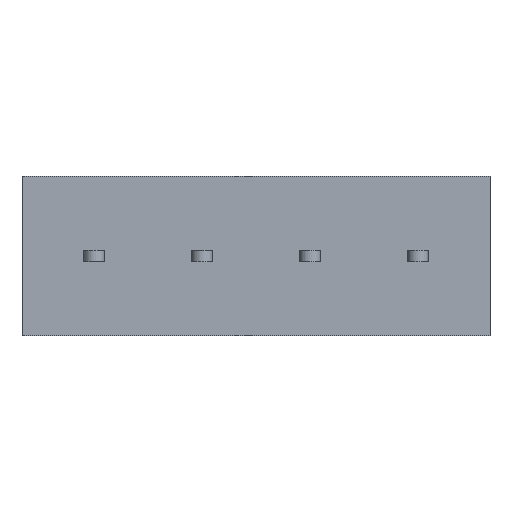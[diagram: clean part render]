
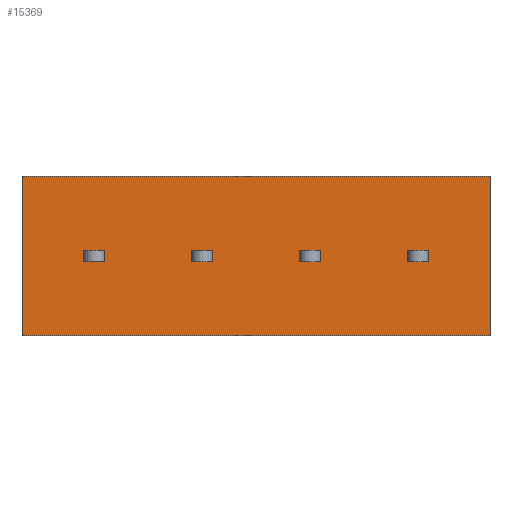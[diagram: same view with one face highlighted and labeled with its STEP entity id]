
A CAD part, front view. The second image highlights one B-rep face of the part: STEP entity #15369.
In plain terms, the highlighted planar face has unit normal (0, -1, 0).
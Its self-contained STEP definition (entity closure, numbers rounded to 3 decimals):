
#1140=VERTEX_POINT('',#20945);
#1141=VERTEX_POINT('',#20946);
#1144=VERTEX_POINT('',#20954);
#1174=VERTEX_POINT('',#21024);
#1460=VERTEX_POINT('',#21944);
#1461=VERTEX_POINT('',#21945);
#1466=VERTEX_POINT('',#21959);
#1473=VERTEX_POINT('',#21985);
#1536=VERTEX_POINT('',#22124);
#1537=VERTEX_POINT('',#22126);
#1542=VERTEX_POINT('',#22174);
#1543=VERTEX_POINT('',#22175);
#1552=VERTEX_POINT('',#22198);
#1553=VERTEX_POINT('',#22199);
#1554=VERTEX_POINT('',#22201);
#1555=VERTEX_POINT('',#22203);
#1556=VERTEX_POINT('',#22206);
#1557=VERTEX_POINT('',#22207);
#1558=VERTEX_POINT('',#22209);
#1559=VERTEX_POINT('',#22211);
#2721=VECTOR('',#17504,1.);
#2724=VECTOR('',#17510,1.);
#2754=VECTOR('',#17556,1.);
#2757=VECTOR('',#17564,1.);
#3059=VECTOR('',#18238,1.);
#3064=VECTOR('',#18250,1.);
#3073=VECTOR('',#18275,1.);
#3075=VECTOR('',#18278,1.);
#3119=VECTOR('',#18376,1.);
#3144=VECTOR('',#18427,1.);
#3157=VECTOR('',#18441,1.);
#3158=VECTOR('',#18442,1.);
#3159=VECTOR('',#18443,1.);
#3160=VECTOR('',#18444,1.);
#3161=VECTOR('',#18445,1.);
#3162=VECTOR('',#18446,1.);
#3163=VECTOR('',#18447,1.);
#3164=VECTOR('',#18448,1.);
#3165=VECTOR('',#18449,1.);
#3166=VECTOR('',#18450,1.);
#4487=LINE('',#20944,#2721);
#4490=LINE('',#20953,#2724);
#4520=LINE('',#21023,#2754);
#4523=LINE('',#21031,#2757);
#4825=LINE('',#21943,#3059);
#4830=LINE('',#21958,#3064);
#4839=LINE('',#21984,#3073);
#4841=LINE('',#21988,#3075);
#4885=LINE('',#22125,#3119);
#4910=LINE('',#22173,#3144);
#4923=LINE('',#22197,#3157);
#4924=LINE('',#22200,#3158);
#4925=LINE('',#22202,#3159);
#4926=LINE('',#22204,#3160);
#4927=LINE('',#22205,#3161);
#4928=LINE('',#22208,#3162);
#4929=LINE('',#22210,#3163);
#4930=LINE('',#22212,#3164);
#4931=LINE('',#22213,#3165);
#4932=LINE('',#22214,#3166);
#6348=EDGE_CURVE('',#1140,#1141,#4487,.T.);
#6352=EDGE_CURVE('',#1141,#1144,#4490,.T.);
#6390=EDGE_CURVE('',#1144,#1174,#4520,.T.);
#6394=EDGE_CURVE('',#1174,#1140,#4523,.T.);
#6830=EDGE_CURVE('',#1460,#1461,#4825,.T.);
#6837=EDGE_CURVE('',#1466,#1460,#4830,.T.);
#6852=EDGE_CURVE('',#1473,#1466,#4839,.T.);
#6854=EDGE_CURVE('',#1461,#1473,#4841,.T.);
#6922=EDGE_CURVE('',#1537,#1536,#4885,.T.);
#6947=EDGE_CURVE('',#1542,#1543,#4910,.T.);
#6960=EDGE_CURVE('',#1552,#1553,#4923,.T.);
#6961=EDGE_CURVE('',#1553,#1554,#4924,.T.);
#6962=EDGE_CURVE('',#1554,#1555,#4925,.T.);
#6963=EDGE_CURVE('',#1555,#1552,#4926,.T.);
#6964=EDGE_CURVE('',#1556,#1557,#4927,.T.);
#6965=EDGE_CURVE('',#1557,#1558,#4928,.T.);
#6966=EDGE_CURVE('',#1558,#1559,#4929,.T.);
#6967=EDGE_CURVE('',#1559,#1556,#4930,.T.);
#6968=EDGE_CURVE('',#1536,#1543,#4931,.T.);
#6969=EDGE_CURVE('',#1542,#1537,#4932,.T.);
#10137=ORIENTED_EDGE('',*,*,#6960,.T.);
#10138=ORIENTED_EDGE('',*,*,#6961,.T.);
#10139=ORIENTED_EDGE('',*,*,#6962,.T.);
#10140=ORIENTED_EDGE('',*,*,#6963,.T.);
#10141=ORIENTED_EDGE('',*,*,#6964,.T.);
#10142=ORIENTED_EDGE('',*,*,#6965,.T.);
#10143=ORIENTED_EDGE('',*,*,#6966,.T.);
#10144=ORIENTED_EDGE('',*,*,#6967,.T.);
#10145=ORIENTED_EDGE('',*,*,#6390,.F.);
#10146=ORIENTED_EDGE('',*,*,#6352,.F.);
#10147=ORIENTED_EDGE('',*,*,#6348,.F.);
#10148=ORIENTED_EDGE('',*,*,#6394,.F.);
#10149=ORIENTED_EDGE('',*,*,#6837,.F.);
#10150=ORIENTED_EDGE('',*,*,#6852,.F.);
#10151=ORIENTED_EDGE('',*,*,#6854,.F.);
#10152=ORIENTED_EDGE('',*,*,#6830,.F.);
#10153=ORIENTED_EDGE('',*,*,#6922,.T.);
#10154=ORIENTED_EDGE('',*,*,#6968,.T.);
#10155=ORIENTED_EDGE('',*,*,#6947,.F.);
#10156=ORIENTED_EDGE('',*,*,#6969,.T.);
#13488=EDGE_LOOP('',(#10137,#10138,#10139,#10140));
#13489=EDGE_LOOP('',(#10141,#10142,#10143,#10144));
#13490=EDGE_LOOP('',(#10145,#10146,#10147,#10148));
#13491=EDGE_LOOP('',(#10149,#10150,#10151,#10152));
#13492=EDGE_LOOP('',(#10153,#10154,#10155,#10156));
#14440=FACE_BOUND('',#13488,.T.);
#14441=FACE_BOUND('',#13489,.T.);
#14442=FACE_BOUND('',#13490,.T.);
#14443=FACE_BOUND('',#13491,.T.);
#14444=FACE_BOUND('',#13492,.T.);
#15369=ADVANCED_FACE('',(#14440,#14441,#14442,#14443,#14444),#26298,.T.);
#16441=AXIS2_PLACEMENT_3D('',#22196,#18440,$);
#17504=DIRECTION('',(1.,0.,0.));
#17510=DIRECTION('',(0.,0.,1.));
#17556=DIRECTION('',(-1.,0.,0.));
#17564=DIRECTION('',(0.,0.,-1.));
#18238=DIRECTION('',(0.,0.,-1.));
#18250=DIRECTION('',(-1.,0.,0.));
#18275=DIRECTION('',(0.,0.,1.));
#18278=DIRECTION('',(1.,0.,0.));
#18376=DIRECTION('',(1.,0.,0.));
#18427=DIRECTION('',(1.,0.,0.));
#18440=DIRECTION('',(0.,-1.,0.));
#18441=DIRECTION('',(1.,0.,0.));
#18442=DIRECTION('',(0.,0.,-1.));
#18443=DIRECTION('',(-1.,0.,0.));
#18444=DIRECTION('',(0.,0.,1.));
#18445=DIRECTION('',(1.,0.,0.));
#18446=DIRECTION('',(0.,0.,-1.));
#18447=DIRECTION('',(-1.,0.,0.));
#18448=DIRECTION('',(0.,0.,1.));
#18449=DIRECTION('',(0.,0.,1.));
#18450=DIRECTION('',(0.,0.,-1.));
#20944=CARTESIAN_POINT('',(32.825,0.,-0.5));
#20945=CARTESIAN_POINT('',(33.95,0.,-0.5));
#20946=CARTESIAN_POINT('',(35.75,0.,-0.5));
#20953=CARTESIAN_POINT('',(35.75,0.,1.75));
#20954=CARTESIAN_POINT('',(35.75,0.,0.5));
#21023=CARTESIAN_POINT('',(32.825,0.,0.5));
#21024=CARTESIAN_POINT('',(33.95,0.,0.5));
#21031=CARTESIAN_POINT('',(33.95,0.,1.75));
#21943=CARTESIAN_POINT('',(24.45,0.,1.75));
#21944=CARTESIAN_POINT('',(24.45,0.,0.5));
#21945=CARTESIAN_POINT('',(24.45,0.,-0.5));
#21958=CARTESIAN_POINT('',(23.325,0.,0.5));
#21959=CARTESIAN_POINT('',(26.25,0.,0.5));
#21984=CARTESIAN_POINT('',(26.25,0.,1.75));
#21985=CARTESIAN_POINT('',(26.25,0.,-0.5));
#21988=CARTESIAN_POINT('',(23.325,0.,-0.5));
#22124=CARTESIAN_POINT('',(41.2,0.,-7.));
#22125=CARTESIAN_POINT('',(19.9,0.,-7.));
#22126=CARTESIAN_POINT('',(0.,0.,-7.));
#22173=CARTESIAN_POINT('',(0.,0.,7.));
#22174=CARTESIAN_POINT('',(0.,0.,7.));
#22175=CARTESIAN_POINT('',(41.2,0.,7.));
#22196=CARTESIAN_POINT('',(19.9,0.,0.));
#22197=CARTESIAN_POINT('',(13.125,0.,0.5));
#22198=CARTESIAN_POINT('',(5.45,0.,0.5));
#22199=CARTESIAN_POINT('',(7.25,0.,0.5));
#22200=CARTESIAN_POINT('',(7.25,0.,1.75));
#22201=CARTESIAN_POINT('',(7.25,0.,-0.5));
#22202=CARTESIAN_POINT('',(13.125,0.,-0.5));
#22203=CARTESIAN_POINT('',(5.45,0.,-0.5));
#22204=CARTESIAN_POINT('',(5.45,0.,1.75));
#22205=CARTESIAN_POINT('',(17.875,0.,0.5));
#22206=CARTESIAN_POINT('',(14.95,0.,0.5));
#22207=CARTESIAN_POINT('',(16.75,0.,0.5));
#22208=CARTESIAN_POINT('',(16.75,0.,1.75));
#22209=CARTESIAN_POINT('',(16.75,0.,-0.5));
#22210=CARTESIAN_POINT('',(17.875,0.,-0.5));
#22211=CARTESIAN_POINT('',(14.95,0.,-0.5));
#22212=CARTESIAN_POINT('',(14.95,0.,1.75));
#22213=CARTESIAN_POINT('',(41.2,0.,7.));
#22214=CARTESIAN_POINT('',(0.,0.,7.));
#26298=PLANE('',#16441);
